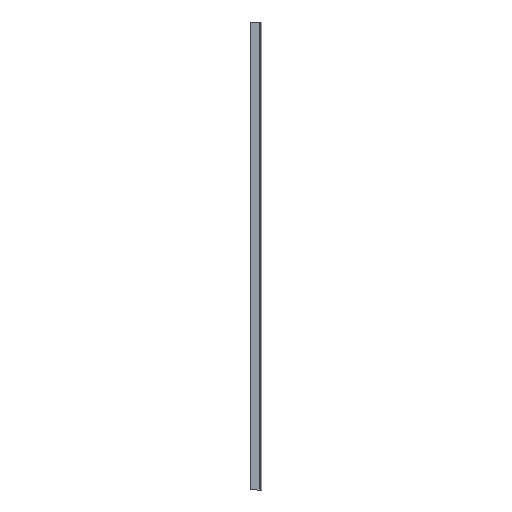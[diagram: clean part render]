
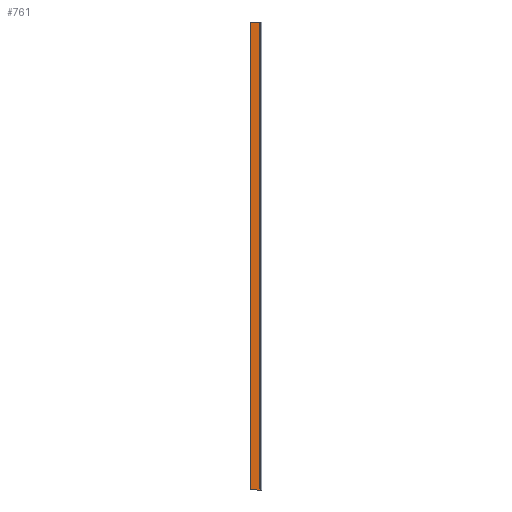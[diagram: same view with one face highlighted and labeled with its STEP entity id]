
A CAD part, left-side view. The second image highlights one B-rep face of the part: STEP entity #761.
In plain terms, the highlighted planar face has unit normal (-1, 0, 0).
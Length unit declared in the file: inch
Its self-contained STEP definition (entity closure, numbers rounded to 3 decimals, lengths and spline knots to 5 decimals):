
#31 = ORIENTED_EDGE ( 'NONE', *, *, #681, .T. ) ;
#41 = LINE ( 'NONE', #560, #76 ) ;
#44 = CARTESIAN_POINT ( 'NONE',  ( 0., 2.5, 0. ) ) ;
#76 = VECTOR ( 'NONE', #85, 39.37008 ) ;
#83 = VERTEX_POINT ( 'NONE', #44 ) ;
#85 = DIRECTION ( 'NONE',  ( 0., -1., 0. ) ) ;
#150 = DIRECTION ( 'NONE',  ( 1., 0., 0. ) ) ;
#205 = CARTESIAN_POINT ( 'NONE',  ( 0., 0.03937, 0. ) ) ;
#233 = LINE ( 'NONE', #631, #436 ) ;
#250 = EDGE_LOOP ( 'NONE', ( #31, #665, #398, #672 ) ) ;
#276 = VECTOR ( 'NONE', #695, 39.37008 ) ;
#320 = EDGE_CURVE ( 'NONE', #467, #379, #41, .T. ) ;
#344 = CARTESIAN_POINT ( 'NONE',  ( 0., 2.5, 120. ) ) ;
#366 = AXIS2_PLACEMENT_3D ( 'NONE', #777, #150, #759 ) ;
#379 = VERTEX_POINT ( 'NONE', #469 ) ;
#398 = ORIENTED_EDGE ( 'NONE', *, *, #320, .F. ) ;
#407 = VECTOR ( 'NONE', #492, 39.37008 ) ;
#428 = FACE_OUTER_BOUND ( 'NONE', #250, .T. ) ;
#435 = CARTESIAN_POINT ( 'NONE',  ( 0., 0.03937, 0. ) ) ;
#436 = VECTOR ( 'NONE', #823, 39.37008 ) ;
#467 = VERTEX_POINT ( 'NONE', #344 ) ;
#469 = CARTESIAN_POINT ( 'NONE',  ( 0., 0.03937, 120. ) ) ;
#492 = DIRECTION ( 'NONE',  ( 0., -1., 0. ) ) ;
#560 = CARTESIAN_POINT ( 'NONE',  ( 0., 0.03937, 120. ) ) ;
#596 = PLANE ( 'NONE',  #366 ) ;
#606 = LINE ( 'NONE', #435, #407 ) ;
#631 = CARTESIAN_POINT ( 'NONE',  ( 0., 0.03937, 120. ) ) ;
#644 = EDGE_CURVE ( 'NONE', #467, #83, #689, .T. ) ;
#665 = ORIENTED_EDGE ( 'NONE', *, *, #812, .F. ) ;
#672 = ORIENTED_EDGE ( 'NONE', *, *, #644, .T. ) ;
#681 = EDGE_CURVE ( 'NONE', #83, #821, #606, .T. ) ;
#689 = LINE ( 'NONE', #706, #276 ) ;
#695 = DIRECTION ( 'NONE',  ( 0., 0., -1. ) ) ;
#706 = CARTESIAN_POINT ( 'NONE',  ( 0., 2.5, 120. ) ) ;
#759 = DIRECTION ( 'NONE',  ( 0., 0., -1. ) ) ;
#761 = ADVANCED_FACE ( 'NONE', ( #428 ), #596, .F. ) ;
#777 = CARTESIAN_POINT ( 'NONE',  ( 0., 0.03937, 120. ) ) ;
#812 = EDGE_CURVE ( 'NONE', #379, #821, #233, .T. ) ;
#821 = VERTEX_POINT ( 'NONE', #205 ) ;
#823 = DIRECTION ( 'NONE',  ( 0., 0., -1. ) ) ;
